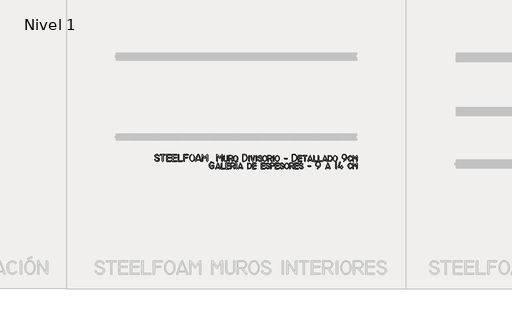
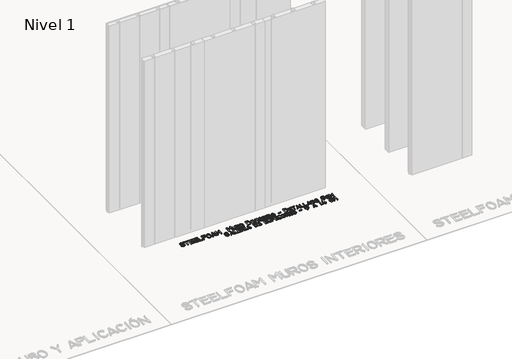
# One storey, part 6 of 6: 1 proxy.
"""IFC4 building model written with IfcOpenShell, lengths in millimetres."""

from ifc_helpers import new_model, si_unit, origin, origin_with_axes, place, context, project, spatial, polyline, outline, extrude, element, save

model = new_model("IFC4")

# Units and contexts
model_context = context("Model", 3, world=origin())
ifc_project = project(units=[si_unit("LENGTHUNIT", "METRE", prefix="MILLI")], contexts=[model_context])

# Site, building, storey
site = spatial("IfcSite", under=ifc_project)
building = spatial("IfcBuilding", under=site)
storey = spatial("IfcBuildingStorey", under=building, Name="Nivel 1", Elevation=0.0)

# Proxy
placement = place(None, origin())
element("IfcBuildingElementProxy", 1, Name="10cm", ObjectType="10cm", at=placement, inside=storey, context=model_context, shape_type="SweptSolid", body=[
    extrude(outline(polyline([(3382.8686718, -7835.7599449), (3380.5693675, -7847.9516049), (3373.6714546, -7856.6599335), (3362.1749331, -7861.8849307), (3346.079803, -7863.6265964), (3326.5609247, -7857.9188217), (3311.5398217, -7842.3110524), (3310.9042665, -7839.9154982), (3315.524264, -7836.6399444), (3318.9464844, -7838.033277), (3331.1564777, -7851.2699364), (3345.8842475, -7855.8043784), (3357.9582687, -7854.5286847), (3366.5825696, -7850.7016034), (3371.7571501, -7844.3231347), (3373.4820103, -7835.3932784), (3369.7909012, -7825.3527283), (3358.7175739, -7817.622177), (3329.1153677, -7806.6221829), (3316.6303745, -7797.1255214), (3312.4687101, -7784.3777506), (3314.4288479, -7774.3249783), (3320.3092614, -7766.9733156), (3330.1099505, -7762.3227626), (3343.8309153, -7760.3733192), (3354.5742428, -7760.5933191), (3365.1953481, -7765.2622054), (3375.168676, -7772.6016459), (3378.4931187, -7781.0777524), (3374.0686766, -7785.0866391), (3369.5709013, -7781.9333075), (3360.2820175, -7771.5810909), (3344.5398038, -7768.1955372), (3327.5264797, -7772.833868), (3323.2731487, -7777.8251153), (3321.8553717, -7784.5977505), (3325.6931474, -7794.2777452), (3337.2064745, -7801.80663), (3366.7353473, -7813.0266239), (3378.8353407, -7822.9755074), (3382.8686718, -7835.7599449)])), origin_with_axes(), (0.0, 0.0, 1.0), 20.0),
    extrude(outline(polyline([(3466.7619596, -7768.1955372), (3437.6241976, -7768.1955372), (3437.6241976, -7858.9332656), (3436.4508649, -7862.4532637), (3432.9308669, -7863.6265964), (3429.4108688, -7862.4532637), (3428.2375361, -7858.9332656), (3428.2375361, -7768.1955372), (3399.8086626, -7768.1955372), (3396.4903311, -7767.0222045), (3395.3842206, -7763.5022064), (3399.8575515, -7760.3733192), (3466.786404, -7760.3733192), (3471.2597349, -7763.5022064), (3470.1352911, -7767.0222045), (3466.7619596, -7768.1955372)])), origin_with_axes(), (0.0, 0.0, 1.0), 20.0),
    extrude(outline(polyline([(3554.9574672, -7863.6265964), (3490.8152798, -7863.6265964), (3490.8152798, -7760.3733192), (3554.9574672, -7760.3733192), (3559.4307981, -7763.5022064), (3558.3185765, -7767.0222045), (3554.9819116, -7768.1955372), (3500.2019414, -7768.1955372), (3500.2019414, -7802.6132962), (3551.7796911, -7802.6132962), (3556.2285776, -7805.7421834), (3555.116356, -7809.2621815), (3551.7796911, -7810.4355142), (3500.2019414, -7810.4355142), (3500.2019414, -7855.8043784), (3554.9819116, -7855.8043784), (3559.4307981, -7858.9332656), (3558.3124654, -7862.4532637), (3554.9574672, -7863.6265964)])), origin_with_axes(), (0.0, 0.0, 1.0), 20.0),
    extrude(outline(polyline([(3644.130752, -7863.6265964), (3579.9885647, -7863.6265964), (3579.9885647, -7760.3733192), (3644.130752, -7760.3733192), (3648.6040829, -7763.5022064), (3647.4918613, -7767.0222045), (3644.1551965, -7768.1955372), (3589.3752262, -7768.1955372), (3589.3752262, -7802.6132962), (3640.952976, -7802.6132962), (3645.4018625, -7805.7421834), (3644.2896408, -7809.2621815), (3640.952976, -7810.4355142), (3589.3752262, -7810.4355142), (3589.3752262, -7855.8043784), (3644.1551965, -7855.8043784), (3648.6040829, -7858.9332656), (3647.4857502, -7862.4532637), (3644.130752, -7863.6265964)])), origin_with_axes(), (0.0, 0.0, 1.0), 20.0),
    extrude(outline(polyline([(3731.7395933, -7863.6265964), (3667.5974059, -7863.6265964), (3667.5974059, -7763.5022064), (3672.2907367, -7760.3733192), (3676.9840675, -7763.5022064), (3676.9840675, -7855.8043784), (3731.7640377, -7855.8043784), (3736.2129242, -7858.9332656), (3735.0945915, -7862.4532637), (3731.7395933, -7863.6265964)])), origin_with_axes(), (0.0, 0.0, 1.0), 20.0),
    extrude(outline(polyline([(3817.8084354, -7768.1955372), (3763.0284652, -7768.1955372), (3763.0284652, -7802.6132962), (3805.4395532, -7802.6132962), (3809.8884397, -7805.7421834), (3808.7762181, -7809.2621815), (3805.4395532, -7810.4355142), (3763.0284652, -7810.4355142), (3763.0284652, -7858.9332656), (3761.8551325, -7862.4532637), (3758.3351344, -7863.6265964), (3754.8151363, -7862.4532637), (3753.6418036, -7858.9332656), (3753.6418036, -7760.3733192), (3817.783991, -7760.3733192), (3822.2573219, -7763.5022064), (3821.1451002, -7767.0222045), (3817.8084354, -7768.1955372)])), origin_with_axes(), (0.0, 0.0, 1.0), 20.0),
    extrude(outline(polyline([(3917.908381, -7811.731069), (3915.4333823, -7830.9810586), (3908.0083863, -7847.1754942), (3895.2789488, -7859.5138208), (3879.0906243, -7863.6265964), (3862.8289665, -7859.519932), (3849.8795291, -7847.1999387), (3842.2345332, -7830.9138364), (3839.6862013, -7811.731069), (3842.0817555, -7792.963857), (3849.2684183, -7776.5555326), (3861.4784116, -7764.4188725), (3877.3306252, -7760.3733192), (3894.3195049, -7764.4188725), (3907.3972756, -7776.5555326), (3915.2806046, -7793.0005237), (3917.908381, -7811.731069)]), holes=[polyline([(3908.5217194, -7811.731069), (3906.5294983, -7795.4449668), (3900.5528348, -7781.7866409), (3890.3656182, -7771.5933131), (3877.3550697, -7768.1955372), (3865.3834095, -7771.5810909), (3856.2106367, -7781.737752), (3850.8573063, -7795.3349669), (3849.0728628, -7811.731069), (3851.0223062, -7828.4816155), (3856.8706364, -7842.0666081), (3866.825631, -7852.3699358), (3879.0906243, -7855.8043784), (3891.3372843, -7852.3699358), (3901.0906123, -7842.0666081), (3906.6639426, -7828.5182821), (3908.5217194, -7811.731069)])]), origin_with_axes(), (0.0, 0.0, 1.0), 20.0),
    extrude(outline(polyline([(4015.7594389, -7858.0288217), (4015.0016615, -7862.526597), (4011.4083301, -7863.6265964), (4006.9105548, -7858.6399324), (4000.0905585, -7843.2888297), (3946.2639211, -7843.2888297), (3939.5905914, -7860.7910424), (3935.2394827, -7863.6265964), (3931.627818, -7862.526597), (3930.4239297, -7859.2265988), (3966.5772434, -7763.8933173), (3972.5905735, -7760.3733192), (3978.6527924, -7764.0155394), (4015.7594389, -7858.0288217)]), holes=[polyline([(3997.1572268, -7835.4666117), (3972.6394623, -7771.1288689), (3949.148364, -7835.4666117), (3997.1572268, -7835.4666117)])]), origin_with_axes(), (0.0, 0.0, 1.0), 20.0),
    extrude(outline(polyline([(4115.0282738, -7858.9332656), (4113.8549411, -7862.4532637), (4110.334943, -7863.6265964), (4106.8149449, -7862.4532637), (4105.6416122, -7858.9332656), (4105.6416122, -7772.155535), (4077.334961, -7815.5688447), (4072.2749637, -7818.8443985), (4067.4838552, -7815.8621779), (4039.9349813, -7772.3022016), (4039.9349813, -7858.9332656), (4038.7616486, -7862.4532637), (4035.2416505, -7863.6265964), (4031.7216524, -7862.4532637), (4030.5483197, -7858.9332656), (4030.5483197, -7763.7710951), (4035.5838725, -7760.3733192), (4043.4305349, -7765.4333164), (4072.3238526, -7807.5266269), (4101.8038365, -7765.6533163), (4109.7727211, -7760.3733192), (4115.0282738, -7764.2110949), (4115.0282738, -7858.9332656)])), origin_with_axes(), (0.0, 0.0, 1.0), 20.0),
    extrude(outline(polyline([(4340.3081513, -7858.9332656), (4339.1348186, -7862.4532637), (4335.6148205, -7863.6265964), (4332.0948225, -7862.4532637), (4330.9214898, -7858.9332656), (4330.9214898, -7772.155535), (4302.6148385, -7815.5688447), (4297.5548412, -7818.8443985), (4292.7637327, -7815.8621779), (4265.2148588, -7772.3022016), (4265.2148588, -7858.9332656), (4264.0415261, -7862.4532637), (4260.521528, -7863.6265964), (4257.0015299, -7862.4532637), (4255.8281973, -7858.9332656), (4255.8281973, -7763.7710951), (4260.8637501, -7760.3733192), (4268.7104125, -7765.4333164), (4297.6037301, -7807.5266269), (4327.0837141, -7765.6533163), (4335.0525986, -7760.3733192), (4340.3081513, -7764.2110949), (4340.3081513, -7858.9332656)])), origin_with_axes(), (0.0, 0.0, 1.0), 20.0),
    extrude(outline(polyline([(4420.0947746, -7834.9777231), (4418.3332478, -7846.7599389), (4413.0486673, -7855.4621564), (4404.2410332, -7861.0843756), (4391.9103455, -7863.6265964), (4380.7942404, -7862.5204859), (4370.961468, -7857.4421553), (4363.2248055, -7848.0493826), (4360.645918, -7835.711056), (4360.645918, -7782.2755295), (4365.3392488, -7779.1466423), (4370.0325796, -7782.2755295), (4370.0325796, -7835.4177228), (4371.755912, -7844.6393845), (4376.9259092, -7851.2821587), (4391.2503459, -7855.8043784), (4405.8436712, -7849.9132705), (4410.708113, -7834.6843899), (4410.708113, -7782.2755295), (4415.4014438, -7779.1466423), (4420.0947746, -7782.2755295), (4420.0947746, -7834.9777231)])), origin_with_axes(), (0.0, 0.0, 1.0), 20.0),
    extrude(outline(polyline([(4496.7525107, -7801.0488526), (4494.6380674, -7812.0855133), (4488.2947375, -7820.1155089), (4476.8791882, -7824.5155065), (4472.5769683, -7824.3443955), (4495.6769557, -7856.7332668), (4496.7525107, -7858.6643769), (4495.5180669, -7862.3860415), (4491.8147356, -7863.6265964), (4488.0991821, -7861.6465975), (4462.6525293, -7824.5155065), (4445.1258721, -7824.5155065), (4445.1258721, -7858.9332656), (4443.9525394, -7862.4532637), (4440.4325413, -7863.6265964), (4436.9125432, -7862.4532637), (4435.7392106, -7858.9332656), (4435.7392106, -7779.1466423), (4472.2591907, -7779.1466423), (4481.7619633, -7780.5033082), (4489.1502926, -7784.573306), (4494.8519562, -7791.9555242), (4496.7525107, -7801.0488526)]), holes=[polyline([(4487.3658492, -7801.0488526), (4482.8436294, -7790.4888584), (4472.161413, -7786.9688603), (4445.1258721, -7786.9688603), (4445.1258721, -7816.6932886), (4476.7814105, -7816.6932886), (4482.6969628, -7813.539957), (4487.3658492, -7801.0488526)])]), origin_with_axes(), (0.0, 0.0, 1.0), 20.0),
    extrude(outline(polyline([(4571.8458032, -7820.6777309), (4569.7985821, -7836.3282779), (4563.6569188, -7849.7910484), (4553.1397023, -7860.1677094), (4539.7747095, -7863.6265964), (4526.476939, -7860.1677094), (4515.8680559, -7849.7910484), (4509.7447259, -7836.2427224), (4507.7036159, -7820.5310643), (4509.8180592, -7805.6016279), (4516.1613891, -7792.2977463), (4526.4647168, -7782.4344183), (4539.7747095, -7779.1466423), (4553.579702, -7782.4344183), (4563.950252, -7792.2977463), (4569.8719154, -7805.5771835), (4571.8458032, -7820.6777309)]), holes=[polyline([(4562.4591417, -7820.6777309), (4561.0658091, -7808.1071821), (4556.8858114, -7797.6266323), (4549.5035931, -7789.6333033), (4539.7747095, -7786.9688603), (4530.4124924, -7789.6394144), (4523.0547186, -7797.6510767), (4518.5813877, -7808.2477376), (4517.0902774, -7820.6777309), (4518.5080544, -7833.8166126), (4522.7613855, -7844.5354957), (4530.4124924, -7852.9871577), (4539.7747095, -7855.8043784), (4549.1185934, -7852.9871577), (4556.7635892, -7844.5354957), (4561.0352535, -7833.7921682), (4562.4591417, -7820.6777309)])]), origin_with_axes(), (0.0, 0.0, 1.0), 20.0),
    extrude(outline(polyline([(4717.3390575, -7807.8444045), (4713.684615, -7832.9121686), (4702.7212876, -7851.3066031), (4689.3868504, -7860.5465981), (4673.3390814, -7863.6265964), (4646.9390957, -7863.6265964), (4646.9390957, -7760.3733192), (4673.1924148, -7760.3733192), (4689.3135171, -7763.1538732), (4702.6723988, -7771.4955354), (4713.6723928, -7787.3416379), (4717.3390575, -7807.8444045)]), holes=[polyline([(4707.9523959, -7807.7710712), (4705.0618419, -7790.4155251), (4696.39018, -7777.3621988), (4685.7385191, -7770.4872026), (4673.3390814, -7768.1955372), (4656.3257573, -7768.1955372), (4656.3257573, -7855.8043784), (4673.485748, -7855.8043784), (4685.7446302, -7853.1460465), (4696.4635133, -7845.1710509), (4705.0801752, -7829.6121704), (4707.9523959, -7807.7710712)])]), origin_with_axes(), (0.0, 0.0, 1.0), 20.0),
    extrude(outline(polyline([(4751.7568165, -7858.9332656), (4750.5834838, -7862.4532637), (4747.0634857, -7863.6265964), (4743.5434877, -7862.4532637), (4742.370155, -7858.9332656), (4742.370155, -7782.2755295), (4747.0634857, -7779.1466423), (4751.7568165, -7782.2755295), (4751.7568165, -7858.9332656)])), origin_with_axes(), (0.0, 0.0, 1.0), 20.0),
    extrude(outline(polyline([(4830.8589957, -7784.1088618), (4808.4434524, -7861.0110423), (4803.0412331, -7863.6265964), (4797.4679028, -7860.3999315), (4772.2901387, -7784.1577507), (4772.0945832, -7782.4466405), (4776.959025, -7779.1466423), (4781.3345782, -7782.3488628), (4802.7234555, -7850.7443812), (4821.8634451, -7781.8110853), (4826.0678872, -7779.1466423), (4830.0645517, -7780.6133082), (4830.8589957, -7784.1088618)])), origin_with_axes(), (0.0, 0.0, 1.0), 20.0),
    extrude(outline(polyline([(4862.8323117, -7858.9332656), (4861.658979, -7862.4532637), (4858.1389809, -7863.6265964), (4854.6189828, -7862.4532637), (4853.4456501, -7858.9332656), (4853.4456501, -7782.2755295), (4858.1389809, -7779.1466423), (4862.8323117, -7782.2755295), (4862.8323117, -7858.9332656)])), origin_with_axes(), (0.0, 0.0, 1.0), 20.0),
    extrude(outline(polyline([(4942.618935, -7840.3554979), (4940.7153249, -7850.5366035), (4935.0044947, -7857.8088218), (4925.4864443, -7862.1721527), (4912.1611738, -7863.6265964), (4896.1011825, -7859.1471544), (4883.8056336, -7845.7088284), (4883.1700784, -7843.4599407), (4887.7900759, -7840.1354981), (4891.1878518, -7841.5288306), (4900.4889579, -7852.2843803), (4911.9411739, -7855.8043784), (4927.9094985, -7851.8382695), (4931.9015797, -7846.8806333), (4933.2322734, -7839.9399426), (4930.2317195, -7832.0321691), (4921.2300577, -7825.957728), (4897.0789597, -7817.059955), (4886.6472987, -7809.2988481), (4883.1700784, -7798.8732983), (4884.830772, -7790.6370527), (4889.8128526, -7784.6038616), (4909.7411751, -7779.1466423), (4918.8589479, -7779.2016423), (4927.7322764, -7783.0821957), (4936.1656052, -7789.0221925), (4938.9767147, -7795.8421888), (4934.625606, -7799.8021866), (4930.2256084, -7796.9666326), (4922.8433902, -7789.4621923), (4910.3767303, -7786.9688603), (4897.0117376, -7790.3666362), (4892.55674, -7799.2399647), (4895.5572939, -7806.9705161), (4904.5589557, -7812.806624), (4929.29672, -7822.21773), (4939.2883812, -7830.1866146), (4942.618935, -7840.3554979)])), origin_with_axes(), (0.0, 0.0, 1.0), 20.0),
    extrude(outline(polyline([(5017.7122275, -7820.6777309), (5015.6650064, -7836.3282779), (5009.5233431, -7849.7910484), (4999.0061265, -7860.1677094), (4985.6411338, -7863.6265964), (4972.3433633, -7860.1677094), (4961.7344801, -7849.7910484), (4955.6111501, -7836.2427224), (4953.5700401, -7820.5310643), (4955.6844834, -7805.6016279), (4962.0278133, -7792.2977463), (4972.331141, -7782.4344183), (4985.6411338, -7779.1466423), (4999.4461263, -7782.4344183), (5009.8166762, -7792.2977463), (5015.7383397, -7805.5771835), (5017.7122275, -7820.6777309)]), holes=[polyline([(5008.3255659, -7820.6777309), (5006.9322333, -7808.1071821), (5002.7522356, -7797.6266323), (4995.3700174, -7789.6333033), (4985.6411338, -7786.9688603), (4976.2789167, -7789.6394144), (4968.9211429, -7797.6510767), (4964.447812, -7808.2477376), (4962.9567017, -7820.6777309), (4964.3744787, -7833.8166126), (4968.6278097, -7844.5354957), (4976.2789167, -7852.9871577), (4985.6411338, -7855.8043784), (4994.9850176, -7852.9871577), (5002.6300135, -7844.5354957), (5006.9016778, -7833.7921682), (5008.3255659, -7820.6777309)])]), origin_with_axes(), (0.0, 0.0, 1.0), 20.0),
    extrude(outline(polyline([(5092.80552, -7801.0488526), (5090.6910767, -7812.0855133), (5084.3477468, -7820.1155089), (5072.9321975, -7824.5155065), (5068.6299776, -7824.3443955), (5091.729965, -7856.7332668), (5092.80552, -7858.6643769), (5091.5710762, -7862.3860415), (5087.8677449, -7863.6265964), (5084.1521914, -7861.6465975), (5058.7055385, -7824.5155065), (5041.1788814, -7824.5155065), (5041.1788814, -7858.9332656), (5040.0055487, -7862.4532637), (5036.4855506, -7863.6265964), (5032.9655525, -7862.4532637), (5031.7922198, -7858.9332656), (5031.7922198, -7779.1466423), (5068.3122, -7779.1466423), (5077.8149726, -7780.5033082), (5085.2033019, -7784.573306), (5090.9049655, -7791.9555242), (5092.80552, -7801.0488526)]), holes=[polyline([(5083.4188584, -7801.0488526), (5078.8966387, -7790.4888584), (5068.2144223, -7786.9688603), (5041.1788814, -7786.9688603), (5041.1788814, -7816.6932886), (5072.8344197, -7816.6932886), (5078.7499721, -7813.539957), (5083.4188584, -7801.0488526)])]), origin_with_axes(), (0.0, 0.0, 1.0), 20.0),
    extrude(outline(polyline([(5122.5299483, -7858.9332656), (5121.3566156, -7862.4532637), (5117.8366175, -7863.6265964), (5114.3166194, -7862.4532637), (5113.1432867, -7858.9332656), (5113.1432867, -7782.2755295), (5117.8366175, -7779.1466423), (5122.5299483, -7782.2755295), (5122.5299483, -7858.9332656)])), origin_with_axes(), (0.0, 0.0, 1.0), 20.0),
    extrude(outline(polyline([(5207.0099024, -7820.6777309), (5204.9626812, -7836.3282779), (5198.8210179, -7849.7910484), (5188.3038014, -7860.1677094), (5174.9388087, -7863.6265964), (5161.6410381, -7860.1677094), (5151.032155, -7849.7910484), (5144.908825, -7836.2427224), (5142.867715, -7820.5310643), (5144.9821583, -7805.6016279), (5151.3254882, -7792.2977463), (5161.6288159, -7782.4344183), (5174.9388087, -7779.1466423), (5188.7438012, -7782.4344183), (5199.1143511, -7792.2977463), (5205.0360145, -7805.5771835), (5207.0099024, -7820.6777309)]), holes=[polyline([(5197.6232408, -7820.6777309), (5196.2299082, -7808.1071821), (5192.0499105, -7797.6266323), (5184.6676923, -7789.6333033), (5174.9388087, -7786.9688603), (5165.5765915, -7789.6394144), (5158.2188178, -7797.6510767), (5153.7454869, -7808.2477376), (5152.2543766, -7820.6777309), (5153.6721536, -7833.8166126), (5157.9254846, -7844.5354957), (5165.5765915, -7852.9871577), (5174.9388087, -7855.8043784), (5184.2826925, -7852.9871577), (5191.9276883, -7844.5354957), (5196.1993527, -7833.7921682), (5197.6232408, -7820.6777309)])]), origin_with_axes(), (0.0, 0.0, 1.0), 20.0),
    extrude(outline(polyline([(5322.9987282, -7826.0799501), (5285.0120822, -7826.0799501), (5280.5387513, -7822.1688412), (5285.0120822, -7819.8221758), (5322.9987282, -7819.8221758), (5327.4720591, -7822.1688412), (5322.9987282, -7826.0799501)])), origin_with_axes(), (0.0, 0.0, 1.0), 20.0),
    extrude(outline(polyline([(5472.9653133, -7807.8444045), (5469.3108709, -7832.9121686), (5458.3475435, -7851.3066031), (5445.0131063, -7860.5465981), (5428.9653372, -7863.6265964), (5402.5653516, -7863.6265964), (5402.5653516, -7760.3733192), (5428.8186707, -7760.3733192), (5444.939773, -7763.1538732), (5458.2986546, -7771.4955354), (5469.2986486, -7787.3416379), (5472.9653133, -7807.8444045)]), holes=[polyline([(5463.5786518, -7807.7710712), (5460.6880978, -7790.4155251), (5452.0164358, -7777.3621988), (5441.3647749, -7770.4872026), (5428.9653372, -7768.1955372), (5411.9520132, -7768.1955372), (5411.9520132, -7855.8043784), (5429.1120038, -7855.8043784), (5441.370886, -7853.1460465), (5452.0897691, -7845.1710509), (5460.7064311, -7829.6121704), (5463.5786518, -7807.7710712)])]), origin_with_axes(), (0.0, 0.0, 1.0), 20.0),
    extrude(outline(polyline([(5543.927497, -7863.6265964), (5491.7386364, -7863.6265964), (5491.7386364, -7779.1466423), (5543.927497, -7779.1466423), (5548.4008279, -7782.2755295), (5547.2886062, -7785.7955276), (5543.9519414, -7786.9688603), (5501.125298, -7786.9688603), (5501.125298, -7811.9999578), (5541.3363873, -7811.9999578), (5545.7852737, -7815.128845), (5544.6730521, -7818.6488431), (5541.3363873, -7819.8221758), (5501.125298, -7819.8221758), (5501.125298, -7855.8043784), (5543.9519414, -7855.8043784), (5548.4008279, -7858.9332656), (5547.2824951, -7862.4532637), (5543.927497, -7863.6265964)])), origin_with_axes(), (0.0, 0.0, 1.0), 20.0),
    extrude(outline(polyline([(5621.8318991, -7786.9688603), (5599.6852444, -7786.9688603), (5599.6852444, -7858.9332656), (5598.5119117, -7862.4532637), (5594.9919136, -7863.6265964), (5591.4719156, -7862.4532637), (5590.2985829, -7858.9332656), (5590.2985829, -7786.9688603), (5568.1519282, -7786.9688603), (5564.8152634, -7785.7955276), (5563.7030418, -7782.2755295), (5568.1763727, -7779.1466423), (5621.8074546, -7779.1466423), (5626.2807855, -7782.2755295), (5625.1685639, -7785.7955276), (5621.8318991, -7786.9688603)])), origin_with_axes(), (0.0, 0.0, 1.0), 20.0),
    extrude(outline(polyline([(5710.4185176, -7857.8821551), (5709.6179624, -7862.5021526), (5705.8962978, -7863.6265964), (5701.6674112, -7860.6443758), (5696.6318584, -7847.9821605), (5654.3429925, -7847.9821605), (5649.5274395, -7860.5954869), (5645.3229974, -7863.6265964), (5641.6013327, -7862.5021526), (5640.3607779, -7859.1288211), (5670.0607617, -7781.737752), (5674.9740924, -7779.1466423), (5680.0096452, -7781.7133076), (5710.4185176, -7857.8821551)]), holes=[polyline([(5693.6496378, -7840.1599425), (5675.0963145, -7791.1733024), (5657.2763242, -7840.1599425), (5693.6496378, -7840.1599425)])]), origin_with_axes(), (0.0, 0.0, 1.0), 20.0),
    extrude(outline(polyline([(5778.594036, -7863.6265964), (5726.4051755, -7863.6265964), (5726.4051755, -7782.2755295), (5731.0985063, -7779.1466423), (5735.7918371, -7782.2755295), (5735.7918371, -7855.8043784), (5778.6184805, -7855.8043784), (5783.0673669, -7858.9332656), (5781.9490342, -7862.4532637), (5778.594036, -7863.6265964)])), origin_with_axes(), (0.0, 0.0, 1.0), 20.0),
    extrude(outline(polyline([(5847.4295542, -7863.6265964), (5795.2406937, -7863.6265964), (5795.2406937, -7782.2755295), (5799.9340244, -7779.1466423), (5804.6273552, -7782.2755295), (5804.6273552, -7855.8043784), (5847.4539986, -7855.8043784), (5851.9028851, -7858.9332656), (5850.7845524, -7862.4532637), (5847.4295542, -7863.6265964)])), origin_with_axes(), (0.0, 0.0, 1.0), 20.0),
    extrude(outline(polyline([(5934.1339515, -7857.8821551), (5933.3333964, -7862.5021526), (5929.6117317, -7863.6265964), (5925.3828451, -7860.6443758), (5920.3472923, -7847.9821605), (5878.0584264, -7847.9821605), (5873.2428735, -7860.5954869), (5869.0384313, -7863.6265964), (5865.3167667, -7862.5021526), (5864.0762118, -7859.1288211), (5893.7761956, -7781.737752), (5898.6895263, -7779.1466423), (5903.7250791, -7781.7133076), (5934.1339515, -7857.8821551)]), holes=[polyline([(5917.3650717, -7840.1599425), (5898.8117485, -7791.1733024), (5880.9917582, -7840.1599425), (5917.3650717, -7840.1599425)])]), origin_with_axes(), (0.0, 0.0, 1.0), 20.0),
    extrude(outline(polyline([(6009.569466, -7818.3555099), (6007.5466894, -7836.7743888), (6001.4783593, -7849.9866038), (5992.8861418, -7857.5521552), (5980.7005928, -7861.9643751), (5951.6850531, -7863.6265964), (5951.6850531, -7779.1466423), (5977.0033726, -7780.3810861), (5992.1405866, -7784.0844174), (6005.2122462, -7796.8444105), (6009.569466, -7818.3555099)]), holes=[polyline([(6000.1828045, -7818.0132879), (5997.0294728, -7800.9999638), (5987.569478, -7791.0755247), (5961.0717146, -7787.2866379), (5961.0717146, -7854.6799346), (5976.8750394, -7853.5188241), (5987.4717003, -7850.0354927), (5997.0050284, -7838.3877212), (6000.1828045, -7818.0132879)])]), origin_with_axes(), (0.0, 0.0, 1.0), 20.0),
    extrude(outline(polyline([(6086.2272021, -7820.6777309), (6084.179981, -7836.3282779), (6078.0383177, -7849.7910484), (6067.5211012, -7860.1677094), (6054.1561085, -7863.6265964), (6040.8583379, -7860.1677094), (6030.2494548, -7849.7910484), (6024.1261248, -7836.2427224), (6022.0850148, -7820.5310643), (6024.1994581, -7805.6016279), (6030.542788, -7792.2977463), (6040.8461157, -7782.4344183), (6054.1561085, -7779.1466423), (6067.961101, -7782.4344183), (6078.3316509, -7792.2977463), (6084.2533143, -7805.5771835), (6086.2272021, -7820.6777309)]), holes=[polyline([(6076.8405406, -7820.6777309), (6075.447208, -7808.1071821), (6071.2672103, -7797.6266323), (6063.8849921, -7789.6333033), (6054.1561085, -7786.9688603), (6044.7938913, -7789.6394144), (6037.4361175, -7797.6510767), (6032.9627866, -7808.2477376), (6031.4716763, -7820.6777309), (6032.8894534, -7833.8166126), (6037.1427844, -7844.5354957), (6044.7938913, -7852.9871577), (6054.1561085, -7855.8043784), (6063.4999923, -7852.9871577), (6071.1449881, -7844.5354957), (6075.4166525, -7833.7921682), (6076.8405406, -7820.6777309)])]), origin_with_axes(), (0.0, 0.0, 1.0), 20.0),
    extrude(outline(polyline([(6225.9271262, -7818.306621), (6213.7782439, -7842.7510522), (6189.3827016, -7862.9910412), (6187.1582584, -7863.6265964), (6183.8399268, -7862.4654859), (6182.7338163, -7858.9821545), (6184.9582596, -7856.6599335), (6208.3088024, -7836.8538332), (6215.3136597, -7825.2228673), (6219.2049076, -7812.4399576), (6209.7388017, -7825.0166174), (6193.2204773, -7829.2088373), (6179.1527072, -7827.0485607), (6168.5804907, -7820.5677309), (6161.962161, -7810.1941254), (6159.756051, -7796.3555219), (6161.9254943, -7782.3396961), (6168.4338241, -7770.7499802), (6178.7004852, -7762.9674844), (6192.1449223, -7760.3733192), (6208.4921357, -7763.3983175), (6220.1826849, -7772.4733126), (6226.4893481, -7784.8299726), (6228.5915692, -7799.7532978), (6225.9271262, -7818.306621)]), holes=[polyline([(6219.2049076, -7794.0088565), (6217.270742, -7784.0752508), (6211.4682452, -7775.7366442), (6202.9340831, -7770.0808139), (6192.804922, -7768.1955372), (6183.4060382, -7770.3588693), (6175.742709, -7776.8488658), (6170.7927117, -7785.8077498), (6169.1427126, -7796.306633), (6171.0004894, -7806.2249609), (6176.5738197, -7814.2732899), (6184.5243709, -7819.608287), (6193.5138105, -7821.3866194), (6203.1876941, -7819.4432871), (6211.5293562, -7813.6132902), (6217.2860198, -7804.8255172), (6219.2049076, -7794.0088565)])]), origin_with_axes(), (0.0, 0.0, 1.0), 20.0),
    extrude(outline(polyline([(6307.7915261, -7850.3043814), (6295.4348662, -7860.7177091), (6281.1715406, -7863.6265964), (6268.8118251, -7860.5954869), (6259.0126638, -7851.5021585), (6252.6235006, -7837.4771662), (6250.4937795, -7819.6510647), (6253.0298892, -7801.4460746), (6260.6382184, -7787.9466375), (6269.7621024, -7781.3466411), (6281.1470962, -7779.1466423), (6296.3515323, -7782.4221961), (6305.9093049, -7792.8110793), (6306.5693046, -7794.3266341), (6305.4204163, -7797.7732989), (6301.9737515, -7798.9221871), (6298.2826424, -7796.648855), (6291.4626461, -7789.388859), (6281.6604292, -7786.9688603), (6273.8076557, -7788.7227482), (6267.2626593, -7793.984412), (6261.7259956, -7804.8255172), (6259.8804411, -7819.6510647), (6261.5426624, -7834.3146679), (6266.5293263, -7845.8432727), (6273.6426558, -7853.314102), (6281.6848736, -7855.8043784), (6291.8354237, -7853.2193798), (6300.7759744, -7845.464384), (6304.3204169, -7844.3399402), (6308.91597, -7847.3954941), (6307.7915261, -7850.3043814)])), origin_with_axes(), (0.0, 0.0, 1.0), 20.0),
    extrude(outline(polyline([(6391.2937029, -7858.9332656), (6390.1387036, -7862.4532637), (6386.6737055, -7863.6265964), (6383.0987074, -7862.4532637), (6381.9070414, -7858.9332656), (6381.9070414, -7790.4888584), (6361.98483, -7824.3199511), (6357.0714993, -7827.0088385), (6351.8403911, -7823.8310625), (6331.8448464, -7790.4888584), (6331.8448464, -7858.9332656), (6330.6715137, -7862.4532637), (6327.1515156, -7863.6265964), (6323.6315175, -7862.4532637), (6322.4581848, -7858.9332656), (6322.4581848, -7782.5444183), (6327.5181821, -7779.1466423), (6334.8759558, -7782.8621959), (6357.0226105, -7816.0332889), (6378.9003763, -7782.8377514), (6386.2092613, -7779.1466423), (6391.2937029, -7782.813307), (6391.2937029, -7858.9332656)])), origin_with_axes(), (0.0, 0.0, 1.0), 20.0),
    extrude(outline(polyline([(4210.459333, -7938.3266101), (4209.1332226, -7955.1199343), (4205.1548915, -7966.5843726), (4195.8598965, -7974.9260347), (4181.3215711, -7977.7065887), (4164.5649135, -7973.5021466), (4150.8638099, -7960.8888201), (4142.7604809, -7944.5416068), (4140.0593713, -7926.1043946), (4142.9010364, -7905.1188504), (4151.4260318, -7888.313304), (4163.856025, -7877.9183097), (4179.8793497, -7874.4533115), (4199.0682281, -7879.2933089), (4208.2348898, -7889.2910812), (4209.0904449, -7891.2466357), (4204.6415584, -7895.6955222), (4200.877116, -7893.5444123), (4193.7637865, -7885.4533056), (4180.0749051, -7882.2755295), (4167.8129673, -7885.2455279), (4158.013806, -7894.155523), (4151.5879761, -7908.0827377), (4149.4460329, -7926.1043946), (4151.609365, -7941.9810526), (4158.0993615, -7955.5843785), (4168.9404667, -7966.3093727), (4181.8104597, -7969.8843708), (4193.0304536, -7966.5782615), (4199.6548945, -7956.6599335), (4201.610449, -7935.4666117), (4183.8149031, -7935.4666117), (4180.3315716, -7934.293279), (4179.1704612, -7930.7732809), (4183.7171253, -7927.6443937), (4210.459333, -7927.6443937), (4210.459333, -7938.3266101)])), origin_with_axes(), (0.0, 0.0, 1.0), 20.0),
    extrude(outline(polyline([(4307.1126138, -7971.9621474), (4306.3120587, -7976.5821449), (4302.5903941, -7977.7065887), (4298.3615075, -7974.7243681), (4293.3259546, -7962.0621528), (4251.0370887, -7962.0621528), (4246.2215358, -7974.6754793), (4242.0170936, -7977.7065887), (4238.295429, -7976.5821449), (4237.0548741, -7973.2088134), (4266.754858, -7895.8177444), (4271.6681886, -7893.2266347), (4276.7037415, -7895.7932999), (4307.1126138, -7971.9621474)]), holes=[polyline([(4290.343734, -7954.2399348), (4271.7904108, -7905.2532948), (4253.9704205, -7954.2399348), (4290.343734, -7954.2399348)])]), origin_with_axes(), (0.0, 0.0, 1.0), 20.0),
    extrude(outline(polyline([(4375.2881323, -7977.7065887), (4323.0992718, -7977.7065887), (4323.0992718, -7896.3555219), (4327.7926026, -7893.2266347), (4332.4859334, -7896.3555219), (4332.4859334, -7969.8843708), (4375.3125767, -7969.8843708), (4379.7614632, -7973.013258), (4378.6431305, -7976.533256), (4375.2881323, -7977.7065887)])), origin_with_axes(), (0.0, 0.0, 1.0), 20.0),
    extrude(outline(polyline([(4445.688094, -7977.7065887), (4393.4992335, -7977.7065887), (4393.4992335, -7893.2266347), (4445.688094, -7893.2266347), (4450.1614249, -7896.3555219), (4449.0492033, -7899.8755199), (4445.7125385, -7901.0488526), (4402.8858951, -7901.0488526), (4402.8858951, -7926.0799501), (4443.0969843, -7926.0799501), (4447.5458708, -7929.2088373), (4446.4336492, -7932.7288354), (4443.0969843, -7933.9021681), (4402.8858951, -7933.9021681), (4402.8858951, -7969.8843708), (4445.7125385, -7969.8843708), (4450.1614249, -7973.013258), (4449.0430922, -7976.533256), (4445.688094, -7977.7065887)])), origin_with_axes(), (0.0, 0.0, 1.0), 20.0),
    extrude(outline(polyline([(4526.476939, -7915.128845), (4524.3624957, -7926.1655056), (4518.0191658, -7934.1955013), (4506.6036165, -7938.5954989), (4502.3013966, -7938.4243879), (4525.401384, -7970.8132592), (4526.476939, -7972.7443692), (4525.2424952, -7976.4660339), (4521.5391639, -7977.7065887), (4517.8236104, -7975.7265898), (4492.3769575, -7938.5954989), (4474.8503004, -7938.5954989), (4474.8503004, -7973.013258), (4473.6769677, -7976.533256), (4470.1569696, -7977.7065887), (4466.6369715, -7976.533256), (4465.4636388, -7973.013258), (4465.4636388, -7893.2266347), (4501.983619, -7893.2266347), (4511.4863916, -7894.5833006), (4518.8747209, -7898.6532984), (4524.5763845, -7906.0355166), (4526.476939, -7915.128845)]), holes=[polyline([(4517.0902774, -7915.128845), (4512.5680577, -7904.5688507), (4501.8858413, -7901.0488526), (4474.8503004, -7901.0488526), (4474.8503004, -7930.7732809), (4506.5058387, -7930.7732809), (4512.4213911, -7927.6199493), (4517.0902774, -7915.128845)])]), origin_with_axes(), (0.0, 0.0, 1.0), 20.0),
    extrude(outline(polyline([(4568.0813608, -7869.6866475), (4545.6169286, -7882.3244184), (4543.6613741, -7882.2999739), (4540.1597093, -7881.1449746), (4538.9924878, -7877.6799765), (4540.5813758, -7875.724422), (4562.4346972, -7863.4777619), (4565.4413623, -7861.9377628), (4569.9146932, -7865.6044275), (4568.0813608, -7869.6866475)])), origin_with_axes(), (0.0, 0.0, 1.0), 20.0),
    extrude(outline(polyline([(4556.2013673, -7973.013258), (4555.0280346, -7976.533256), (4551.5080365, -7977.7065887), (4547.9880384, -7976.533256), (4546.8147057, -7973.013258), (4546.8147057, -7896.1599664), (4551.5080365, -7893.2266347), (4556.2013673, -7896.1599664), (4556.2013673, -7973.013258)])), origin_with_axes(), (0.0, 0.0, 1.0), 20.0),
    extrude(outline(polyline([(4648.1613173, -7971.9621474), (4647.3607622, -7976.5821449), (4643.6390975, -7977.7065887), (4639.4102109, -7974.7243681), (4634.3746581, -7962.0621528), (4592.0857922, -7962.0621528), (4587.2702393, -7974.6754793), (4583.0657971, -7977.7065887), (4579.3441325, -7976.5821449), (4578.1035776, -7973.2088134), (4607.8035615, -7895.8177444), (4612.7168921, -7893.2266347), (4617.7524449, -7895.7932999), (4648.1613173, -7971.9621474)]), holes=[polyline([(4631.3924375, -7954.2399348), (4612.8391143, -7905.2532948), (4595.019124, -7954.2399348), (4631.3924375, -7954.2399348)])]), origin_with_axes(), (0.0, 0.0, 1.0), 20.0),
    extrude(outline(polyline([(4783.0456884, -7932.4355022), (4781.0229117, -7950.8543811), (4774.9545817, -7964.0665962), (4766.3623641, -7971.6321476), (4754.1768152, -7976.0443674), (4725.1612754, -7977.7065887), (4725.1612754, -7893.2266347), (4750.479595, -7894.4610784), (4765.616809, -7898.1644098), (4778.6884685, -7910.9244028), (4783.0456884, -7932.4355022)]), holes=[polyline([(4773.6590268, -7932.0932802), (4770.5056952, -7915.0799561), (4761.0457004, -7905.1555171), (4734.547937, -7901.3666302), (4734.547937, -7968.7599269), (4750.3512617, -7967.5988165), (4760.9479226, -7964.115485), (4770.4812508, -7952.4677136), (4773.6590268, -7932.0932802)])]), origin_with_axes(), (0.0, 0.0, 1.0), 20.0),
    extrude(outline(polyline([(4850.8789849, -7977.7065887), (4798.6901243, -7977.7065887), (4798.6901243, -7893.2266347), (4850.8789849, -7893.2266347), (4855.3523158, -7896.3555219), (4854.2400941, -7899.8755199), (4850.9034293, -7901.0488526), (4808.0767859, -7901.0488526), (4808.0767859, -7926.0799501), (4848.2878752, -7926.0799501), (4852.7367616, -7929.2088373), (4851.62454, -7932.7288354), (4848.2878752, -7933.9021681), (4808.0767859, -7933.9021681), (4808.0767859, -7969.8843708), (4850.9034293, -7969.8843708), (4855.3523158, -7973.013258), (4854.233983, -7976.533256), (4850.8789849, -7977.7065887)])), origin_with_axes(), (0.0, 0.0, 1.0), 20.0),
    extrude(outline(polyline([(4983.8566903, -7977.7065887), (4931.6678298, -7977.7065887), (4931.6678298, -7893.2266347), (4983.8566903, -7893.2266347), (4988.3300212, -7896.3555219), (4987.2177996, -7899.8755199), (4983.8811348, -7901.0488526), (4941.0544914, -7901.0488526), (4941.0544914, -7926.0799501), (4981.2655806, -7926.0799501), (4985.7144671, -7929.2088373), (4984.6022455, -7932.7288354), (4981.2655806, -7933.9021681), (4941.0544914, -7933.9021681), (4941.0544914, -7969.8843708), (4983.8811348, -7969.8843708), (4988.3300212, -7973.013258), (4987.2116885, -7976.533256), (4983.8566903, -7977.7065887)])), origin_with_axes(), (0.0, 0.0, 1.0), 20.0),
    extrude(outline(polyline([(5061.5166481, -7954.4354903), (5059.613038, -7964.6165959), (5053.9022078, -7971.8888141), (5044.3841574, -7976.2521451), (5031.0588869, -7977.7065887), (5014.9988956, -7973.2271467), (5002.7033468, -7959.7888207), (5002.0677915, -7957.539933), (5006.687789, -7954.2154904), (5010.085565, -7955.608823), (5019.386671, -7966.3643727), (5030.838887, -7969.8843708), (5046.8072117, -7965.9182618), (5050.7992928, -7960.9606256), (5052.1299866, -7954.0199349), (5049.1294326, -7946.1121615), (5040.1277709, -7940.0377203), (5015.9766729, -7931.1399474), (5005.5450119, -7923.3788405), (5002.0677915, -7912.9532906), (5003.7284851, -7904.7170451), (5008.7105657, -7898.6838539), (5028.6388882, -7893.2266347), (5037.756661, -7893.2816346), (5046.6299895, -7897.1621881), (5055.0633183, -7903.1021849), (5057.8744279, -7909.9221811), (5053.5233191, -7913.882179), (5049.1233215, -7911.046625), (5041.7411033, -7903.5421846), (5029.2744434, -7901.0488526), (5015.9094507, -7904.4466286), (5011.4544531, -7913.3199571), (5014.455007, -7921.0505084), (5023.4566688, -7926.8866164), (5048.1944331, -7936.2977224), (5058.1860944, -7944.2666069), (5061.5166481, -7954.4354903)])), origin_with_axes(), (0.0, 0.0, 1.0), 20.0),
    extrude(outline(polyline([(5128.7877227, -7914.7132897), (5123.6543921, -7930.7732809), (5117.4332844, -7935.4666117), (5109.0366223, -7937.0310553), (5083.4188584, -7937.0310553), (5083.4188584, -7973.013258), (5082.2455257, -7976.533256), (5078.7255277, -7977.7065887), (5075.2055296, -7976.533256), (5074.0321969, -7973.013258), (5074.0321969, -7893.2266347), (5106.8366235, -7893.2266347), (5116.4402294, -7894.5695506), (5123.2999479, -7898.5982984), (5127.415779, -7905.3128781), (5128.7877227, -7914.7132897)]), holes=[polyline([(5119.4010611, -7914.7132897), (5116.2293962, -7904.4649619), (5106.7144013, -7901.0488526), (5083.4188584, -7901.0488526), (5083.4188584, -7929.2088373), (5108.6699558, -7929.2088373), (5116.3821738, -7925.3832838), (5119.4010611, -7914.7132897)])]), origin_with_axes(), (0.0, 0.0, 1.0), 20.0),
    extrude(outline(polyline([(5196.6210191, -7977.7065887), (5144.4321586, -7977.7065887), (5144.4321586, -7893.2266347), (5196.6210191, -7893.2266347), (5201.09435, -7896.3555219), (5199.9821284, -7899.8755199), (5196.6454635, -7901.0488526), (5153.8188202, -7901.0488526), (5153.8188202, -7926.0799501), (5194.0299094, -7926.0799501), (5198.4787959, -7929.2088373), (5197.3665743, -7932.7288354), (5194.0299094, -7933.9021681), (5153.8188202, -7933.9021681), (5153.8188202, -7969.8843708), (5196.6454635, -7969.8843708), (5201.09435, -7973.013258), (5199.9760173, -7976.533256), (5196.6210191, -7977.7065887)])), origin_with_axes(), (0.0, 0.0, 1.0), 20.0),
    extrude(outline(polyline([(5274.2809769, -7954.4354903), (5272.3773668, -7964.6165959), (5266.6665366, -7971.8888141), (5257.1484862, -7976.2521451), (5243.8232157, -7977.7065887), (5227.7632244, -7973.2271467), (5215.4676755, -7959.7888207), (5214.8321203, -7957.539933), (5219.4521178, -7954.2154904), (5222.8498937, -7955.608823), (5232.1509998, -7966.3643727), (5243.6032158, -7969.8843708), (5259.5715404, -7965.9182618), (5263.5636216, -7960.9606256), (5264.8943153, -7954.0199349), (5261.8937614, -7946.1121615), (5252.8920996, -7940.0377203), (5228.7410016, -7931.1399474), (5218.3093407, -7923.3788405), (5214.8321203, -7912.9532906), (5216.4928139, -7904.7170451), (5221.4748945, -7898.6838539), (5241.403217, -7893.2266347), (5250.5209898, -7893.2816346), (5259.3943183, -7897.1621881), (5267.8276471, -7903.1021849), (5270.6387566, -7909.9221811), (5266.2876479, -7913.882179), (5261.8876503, -7911.046625), (5254.5054321, -7903.5421846), (5242.0387722, -7901.0488526), (5228.6737795, -7904.4466286), (5224.2187819, -7913.3199571), (5227.2193358, -7921.0505084), (5236.2209976, -7926.8866164), (5260.9587619, -7936.2977224), (5270.9504231, -7944.2666069), (5274.2809769, -7954.4354903)])), origin_with_axes(), (0.0, 0.0, 1.0), 20.0),
    extrude(outline(polyline([(5349.3742694, -7934.7577232), (5347.3270483, -7950.4082702), (5341.185385, -7963.8710407), (5330.6681685, -7974.2477017), (5317.3031757, -7977.7065887), (5304.0054052, -7974.2477017), (5293.3965221, -7963.8710407), (5287.273192, -7950.3227147), (5285.232082, -7934.6110566), (5287.3465253, -7919.6816203), (5293.6898552, -7906.3777386), (5303.993183, -7896.5144107), (5317.3031757, -7893.2266347), (5331.1081682, -7896.5144107), (5341.4787181, -7906.3777386), (5347.4003816, -7919.6571759), (5349.3742694, -7934.7577232)]), holes=[polyline([(5339.9876078, -7934.7577232), (5338.5942753, -7922.1871745), (5334.4142775, -7911.7066246), (5327.0320593, -7903.7132956), (5317.3031757, -7901.0488526), (5307.9409586, -7903.7194067), (5300.5831848, -7911.731069), (5296.1098539, -7922.32773), (5294.6187436, -7934.7577232), (5296.0365206, -7947.8966049), (5300.2898516, -7958.615488), (5307.9409586, -7967.0671501), (5317.3031757, -7969.8843708), (5326.6470595, -7967.0671501), (5334.2920554, -7958.615488), (5338.5637197, -7947.8721605), (5339.9876078, -7934.7577232)])]), origin_with_axes(), (0.0, 0.0, 1.0), 20.0),
    extrude(outline(polyline([(5424.4675619, -7915.128845), (5422.3531186, -7926.1655056), (5416.0097887, -7934.1955013), (5404.5942394, -7938.5954989), (5400.2920195, -7938.4243879), (5423.3920069, -7970.8132592), (5424.4675619, -7972.7443692), (5423.2331181, -7976.4660339), (5419.5297868, -7977.7065887), (5415.8142333, -7975.7265898), (5390.3675804, -7938.5954989), (5372.8409233, -7938.5954989), (5372.8409233, -7973.013258), (5371.6675906, -7976.533256), (5368.1475925, -7977.7065887), (5364.6275944, -7976.533256), (5363.4542617, -7973.013258), (5363.4542617, -7893.2266347), (5399.9742419, -7893.2266347), (5409.4770145, -7894.5833006), (5416.8653438, -7898.6532984), (5422.5670074, -7906.0355166), (5424.4675619, -7915.128845)]), holes=[polyline([(5415.0809003, -7915.128845), (5410.5586806, -7904.5688507), (5399.8764642, -7901.0488526), (5372.8409233, -7901.0488526), (5372.8409233, -7930.7732809), (5404.4964617, -7930.7732809), (5410.412014, -7927.6199493), (5415.0809003, -7915.128845)])]), origin_with_axes(), (0.0, 0.0, 1.0), 20.0),
    extrude(outline(polyline([(5490.7364148, -7977.7065887), (5438.5475543, -7977.7065887), (5438.5475543, -7893.2266347), (5490.7364148, -7893.2266347), (5495.2097457, -7896.3555219), (5494.0975241, -7899.8755199), (5490.7608592, -7901.0488526), (5447.9342158, -7901.0488526), (5447.9342158, -7926.0799501), (5488.1453051, -7926.0799501), (5492.5941915, -7929.2088373), (5491.4819699, -7932.7288354), (5488.1453051, -7933.9021681), (5447.9342158, -7933.9021681), (5447.9342158, -7969.8843708), (5490.7608592, -7969.8843708), (5495.2097457, -7973.013258), (5494.0914129, -7976.533256), (5490.7364148, -7977.7065887)])), origin_with_axes(), (0.0, 0.0, 1.0), 20.0),
    extrude(outline(polyline([(5568.3963725, -7954.4354903), (5566.4927625, -7964.6165959), (5560.7819322, -7971.8888141), (5551.2638819, -7976.2521451), (5537.9386113, -7977.7065887), (5521.8786201, -7973.2271467), (5509.5830712, -7959.7888207), (5508.947516, -7957.539933), (5513.5675135, -7954.2154904), (5516.9652894, -7955.608823), (5526.2663955, -7966.3643727), (5537.7186114, -7969.8843708), (5553.6869361, -7965.9182618), (5557.6790173, -7960.9606256), (5559.009711, -7954.0199349), (5556.0091571, -7946.1121615), (5547.0074953, -7940.0377203), (5522.8563973, -7931.1399474), (5512.4247363, -7923.3788405), (5508.947516, -7912.9532906), (5510.6082095, -7904.7170451), (5515.5902901, -7898.6838539), (5535.5186126, -7893.2266347), (5544.6363855, -7893.2816346), (5553.509714, -7897.1621881), (5561.9430427, -7903.1021849), (5564.7541523, -7909.9221811), (5560.4030436, -7913.882179), (5556.003046, -7911.046625), (5548.6208277, -7903.5421846), (5536.1541679, -7901.0488526), (5522.7891751, -7904.4466286), (5518.3341775, -7913.3199571), (5521.3347315, -7921.0505084), (5530.3363932, -7926.8866164), (5555.0741576, -7936.2977224), (5565.0658188, -7944.2666069), (5568.3963725, -7954.4354903)])), origin_with_axes(), (0.0, 0.0, 1.0), 20.0),
    extrude(outline(polyline([(5682.8207548, -7940.1599425), (5644.8341088, -7940.1599425), (5640.3607779, -7936.2488335), (5644.8341088, -7933.9021681), (5682.8207548, -7933.9021681), (5687.2940857, -7936.2488335), (5682.8207548, -7940.1599425)])), origin_with_axes(), (0.0, 0.0, 1.0), 20.0),
    extrude(outline(polyline([(5826.9940097, -7932.3866134), (5814.8451275, -7956.8310445), (5790.4495852, -7977.0710335), (5788.2251419, -7977.7065887), (5784.9068104, -7976.5454783), (5783.8006999, -7973.0621468), (5786.0251431, -7970.7399259), (5809.375686, -7950.9338255), (5816.3805433, -7939.3028596), (5820.2717912, -7926.5199499), (5810.8056852, -7939.0966097), (5794.2873608, -7943.2888297), (5780.2195907, -7941.1285531), (5769.6473742, -7934.6477233), (5763.0290445, -7924.2741178), (5760.8229346, -7910.4355142), (5762.9923779, -7896.4196885), (5769.5007077, -7884.8299726), (5779.7673687, -7877.0474768), (5793.2118059, -7874.4533115), (5809.5590192, -7877.4783099), (5821.2495684, -7886.553305), (5827.5562317, -7898.9099649), (5829.6584527, -7913.8332901), (5826.9940097, -7932.3866134)]), holes=[polyline([(5820.2717912, -7908.0888488), (5818.3376256, -7898.1552431), (5812.5351287, -7889.8166365), (5804.0009667, -7884.1608063), (5793.8718055, -7882.2755295), (5784.4729217, -7884.4388617), (5776.8095926, -7890.9288581), (5771.8595953, -7899.8877422), (5770.2095962, -7910.3866253), (5772.0673729, -7920.3049533), (5777.6407032, -7928.3532822), (5785.5912545, -7933.6882793), (5794.580694, -7935.4666117), (5804.2545777, -7933.5232794), (5812.5962398, -7927.6932826), (5818.3529033, -7918.9055096), (5820.2717912, -7908.0888488)])]), origin_with_axes(), (0.0, 0.0, 1.0), 20.0),
    extrude(outline(polyline([(5979.5028157, -7971.9621474), (5978.7022606, -7976.5821449), (5974.9805959, -7977.7065887), (5970.7517094, -7974.7243681), (5965.7161565, -7962.0621528), (5923.4272906, -7962.0621528), (5918.6117377, -7974.6754793), (5914.4072955, -7977.7065887), (5910.6856309, -7976.5821449), (5909.445076, -7973.2088134), (5939.1450599, -7895.8177444), (5944.0583905, -7893.2266347), (5949.0939434, -7895.7932999), (5979.5028157, -7971.9621474)]), holes=[polyline([(5962.7339359, -7954.2399348), (5944.1806127, -7905.2532948), (5926.3606224, -7954.2399348), (5962.7339359, -7954.2399348)])]), origin_with_axes(), (0.0, 0.0, 1.0), 20.0),
    extrude(outline(polyline([(6075.276097, -7973.184369), (6074.1027643, -7976.5760338), (6070.5827662, -7977.7065887), (6067.0627681, -7976.5760338), (6065.8894354, -7973.184369), (6065.8894354, -7877.4110877), (6070.5827662, -7874.4533115), (6075.276097, -7877.4110877), (6075.276097, -7973.184369)])), origin_with_axes(), (0.0, 0.0, 1.0), 20.0),
    extrude(outline(polyline([(6169.3382681, -7960.4977092), (6158.1916075, -7960.4977092), (6158.1916075, -7973.1599245), (6157.0182748, -7976.5699227), (6153.4982767, -7977.7065887), (6149.9782786, -7976.5699227), (6148.8049459, -7973.1599245), (6148.8049459, -7960.4977092), (6101.8716381, -7960.4977092), (6098.7427509, -7957.197711), (6100.4049722, -7951.2577142), (6126.3894025, -7878.1933095), (6130.5694002, -7874.4533115), (6135.1893977, -7878.5355315), (6135.3849532, -7880.2221973), (6109.7183005, -7952.6754912), (6148.8049459, -7952.6754912), (6148.8049459, -7931.9955025), (6153.4982767, -7929.2088373), (6158.1916075, -7931.9955025), (6158.1916075, -7952.6754912), (6169.3627125, -7952.6754912), (6173.8849323, -7955.8043784), (6172.7482662, -7959.3243765), (6169.3382681, -7960.4977092)])), origin_with_axes(), (0.0, 0.0, 1.0), 20.0),
    extrude(outline(polyline([(6307.7915261, -7964.3843738), (6295.4348662, -7974.7977014), (6281.1715406, -7977.7065887), (6268.8118251, -7974.6754793), (6259.0126638, -7965.5821509), (6252.6235006, -7951.5571585), (6250.4937795, -7933.7310571), (6253.0298892, -7915.526067), (6260.6382184, -7902.0266299), (6269.7621024, -7895.4266335), (6281.1470962, -7893.2266347), (6296.3515323, -7896.5021884), (6305.9093049, -7906.8910717), (6306.5693046, -7908.4066264), (6305.4204163, -7911.8532912), (6301.9737515, -7913.0021795), (6298.2826424, -7910.7288474), (6291.4626461, -7903.4688513), (6281.6604292, -7901.0488526), (6273.8076557, -7902.8027406), (6267.2626593, -7908.0644044), (6261.7259956, -7918.9055096), (6259.8804411, -7933.7310571), (6261.5426624, -7948.3946602), (6266.5293263, -7959.9232651), (6273.6426558, -7967.3940943), (6281.6848736, -7969.8843708), (6291.8354237, -7967.2993722), (6300.7759744, -7959.5443764), (6304.3204169, -7958.4199326), (6308.91597, -7961.4754864), (6307.7915261, -7964.3843738)])), origin_with_axes(), (0.0, 0.0, 1.0), 20.0),
    extrude(outline(polyline([(6391.2937029, -7973.013258), (6390.1387036, -7976.533256), (6386.6737055, -7977.7065887), (6383.0987074, -7976.533256), (6381.9070414, -7973.013258), (6381.9070414, -7904.5688507), (6361.98483, -7938.3999434), (6357.0714993, -7941.0888309), (6351.8403911, -7937.9110548), (6331.8448464, -7904.5688507), (6331.8448464, -7973.013258), (6330.6715137, -7976.533256), (6327.1515156, -7977.7065887), (6323.6315175, -7976.533256), (6322.4581848, -7973.013258), (6322.4581848, -7896.6244106), (6327.5181821, -7893.2266347), (6334.8759558, -7896.9421882), (6357.0226105, -7930.1132813), (6378.9003763, -7896.9177438), (6386.2092613, -7893.2266347), (6391.2937029, -7896.8932993), (6391.2937029, -7973.013258)])), origin_with_axes(), (0.0, 0.0, 1.0), 20.0),
])

save(model, "model.ifc")
